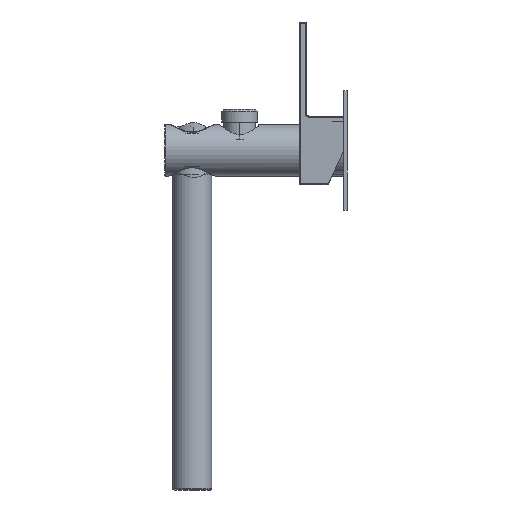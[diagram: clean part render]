
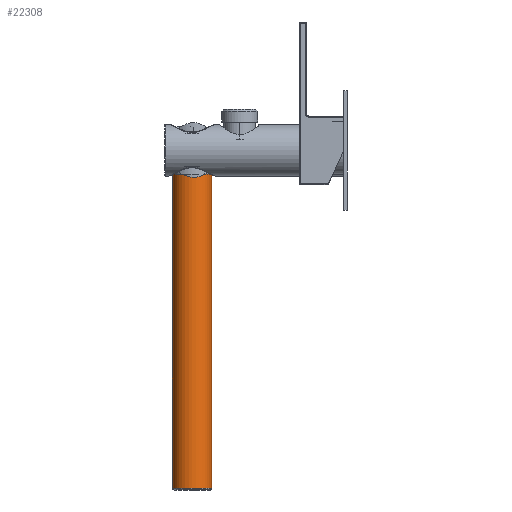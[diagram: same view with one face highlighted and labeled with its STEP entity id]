
A CAD part, left-side view. The second image highlights one B-rep face of the part: STEP entity #22308.
In plain terms, the highlighted cylindrical face has radius 11.5 mm (diameter 23 mm), a partial arc.
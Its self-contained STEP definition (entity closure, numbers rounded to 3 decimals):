
#1295 = ORIENTED_EDGE ( 'NONE', *, *, #5906, .T. ) ;
#1491 = VERTEX_POINT ( 'NONE', #7824 ) ;
#4120 = DIRECTION ( 'NONE',  ( 0., 1., 0. ) ) ;
#4436 = EDGE_CURVE ( 'NONE', #22098, #1491, #21257, .T. ) ;
#4807 = DIRECTION ( 'NONE',  ( 0., 1., 0. ) ) ;
#5073 = CARTESIAN_POINT ( 'NONE',  ( 413., 102.2, -151.583 ) ) ;
#5215 = CARTESIAN_POINT ( 'NONE',  ( 413., 90.7, -151.583 ) ) ;
#5343 = DIRECTION ( 'NONE',  ( 0., 1., 0. ) ) ;
#5725 = ORIENTED_EDGE ( 'NONE', *, *, #10402, .F. ) ;
#5906 = EDGE_CURVE ( 'NONE', #19624, #17960, #18060, .T. ) ;
#7824 = CARTESIAN_POINT ( 'NONE',  ( 413., 102.2, -14.083 ) ) ;
#7904 = CARTESIAN_POINT ( 'NONE',  ( 413., 79.2, -151.583 ) ) ;
#8970 = DIRECTION ( 'NONE',  ( 0., 0., -1. ) ) ;
#10402 = EDGE_CURVE ( 'NONE', #22098, #17960, #19905, .T. ) ;
#11946 = AXIS2_PLACEMENT_3D ( 'NONE', #5215, #8970, #5343 ) ;
#12305 = CARTESIAN_POINT ( 'NONE',  ( 413., 102.2, -197.583 ) ) ;
#12407 = EDGE_LOOP ( 'NONE', ( #5725, #12647, #13352, #1295 ) ) ;
#12647 = ORIENTED_EDGE ( 'NONE', *, *, #4436, .T. ) ;
#12958 = CARTESIAN_POINT ( 'NONE',  ( 413., 90.7, -197.583 ) ) ;
#13064 = DIRECTION ( 'NONE',  ( 0., 0., 1. ) ) ;
#13138 = CARTESIAN_POINT ( 'NONE',  ( 413., 79.2, -197.583 ) ) ;
#13352 = ORIENTED_EDGE ( 'NONE', *, *, #13626, .T. ) ;
#13626 = EDGE_CURVE ( 'NONE', #1491, #19624, #14134, .T. ) ;
#13944 = CYLINDRICAL_SURFACE ( 'NONE', #11946, 11.5 ) ;
#14134 = LINE ( 'NONE', #5073, #15093 ) ;
#15093 = VECTOR ( 'NONE', #17212, 1000. ) ;
#17212 = DIRECTION ( 'NONE',  ( 0., 0., -1. ) ) ;
#17960 = VERTEX_POINT ( 'NONE', #13138 ) ;
#18060 = CIRCLE ( 'NONE', #19876, 11.5 ) ;
#18314 = DIRECTION ( 'NONE',  ( 0., 0., -1. ) ) ;
#18959 = VECTOR ( 'NONE', #18314, 1000. ) ;
#19624 = VERTEX_POINT ( 'NONE', #12305 ) ;
#19876 = AXIS2_PLACEMENT_3D ( 'NONE', #12958, #13064, #4120 ) ;
#19905 = LINE ( 'NONE', #7904, #18959 ) ;
#20117 = DIRECTION ( 'NONE',  ( 0., 0., -1. ) ) ;
#20337 = CARTESIAN_POINT ( 'NONE',  ( 413., 90.7, -14.083 ) ) ;
#20527 = AXIS2_PLACEMENT_3D ( 'NONE', #20337, #20117, #4807 ) ;
#20675 = CARTESIAN_POINT ( 'NONE',  ( 413., 79.2, -14.083 ) ) ;
#21257 = CIRCLE ( 'NONE', #20527, 11.5 ) ;
#22098 = VERTEX_POINT ( 'NONE', #20675 ) ;
#22308 = ADVANCED_FACE ( 'NONE', ( #22319 ), #13944, .T. ) ;
#22319 = FACE_OUTER_BOUND ( 'NONE', #12407, .T. ) ;
